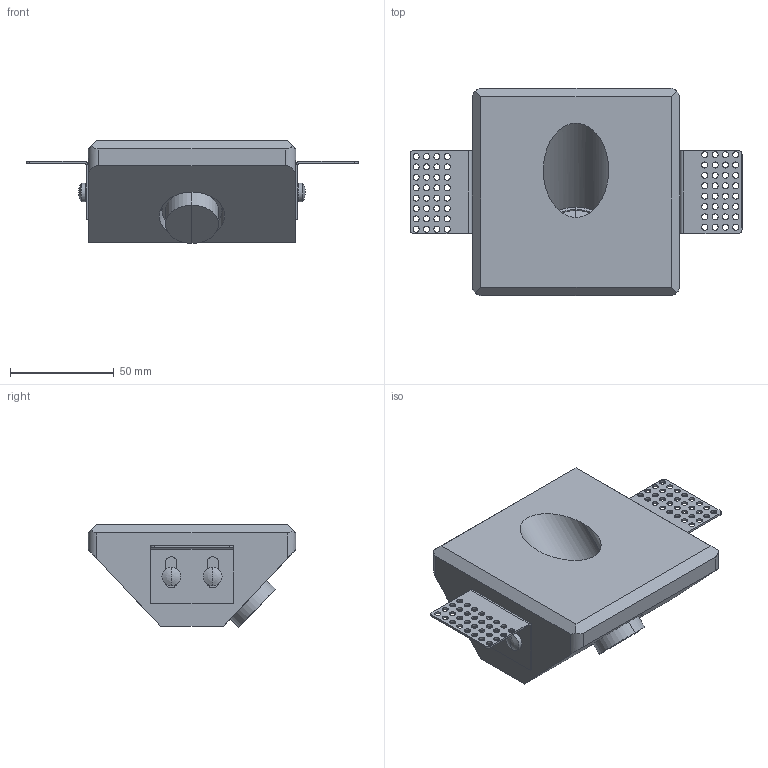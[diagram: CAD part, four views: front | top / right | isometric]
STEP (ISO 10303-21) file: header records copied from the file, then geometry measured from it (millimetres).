
FILE_DESCRIPTION(/* description */ (''),/* implementation_level */ '2;1');
FILE_NAME(/* name */ '63425.step',/* time_stamp */ '2024-11-22T12:07:23+01:00',/* author */ ('RenataManzini'),/* organization */ (''),/* preprocessor_version */ 'ST-DEVELOPER v20',/* originating_system */ 'AutoCAD Mechanical',/* authorisation */ '');
FILE_SCHEMA (('AUTOMOTIVE_DESIGN { 1 0 10303 214 3 1 1 }'));
Length unit declared in the file: millimetre
Products named in the file (3): Product; FamilyGeomCombination_425509-_3D_; FamilyGeomCombination_431354-_3D_
Assembly tree (2 placements, depth 2):
  Product
    FamilyGeomCombination_425509-_3D_
    FamilyGeomCombination_431354-_3D_
Bounding box: 160 x 100 x 49.48 mm (x, y, z)
Volume: 331977 mm3; surface area: 48098 mm2
Topology: 8 solids, 8 shells, 244 faces, 648 edges, 412 vertices
Faces by surface type: cylinder 172, plane 62, bspline 8, cone 2
Entity records: 8136 total; most frequent: CARTESIAN_POINT 1514, DIRECTION 1460, ORIENTED_EDGE 1280, EDGE_CURVE 640, AXIS2_PLACEMENT_3D 590, VERTEX_POINT 412, EDGE_LOOP 382, CIRCLE 333
